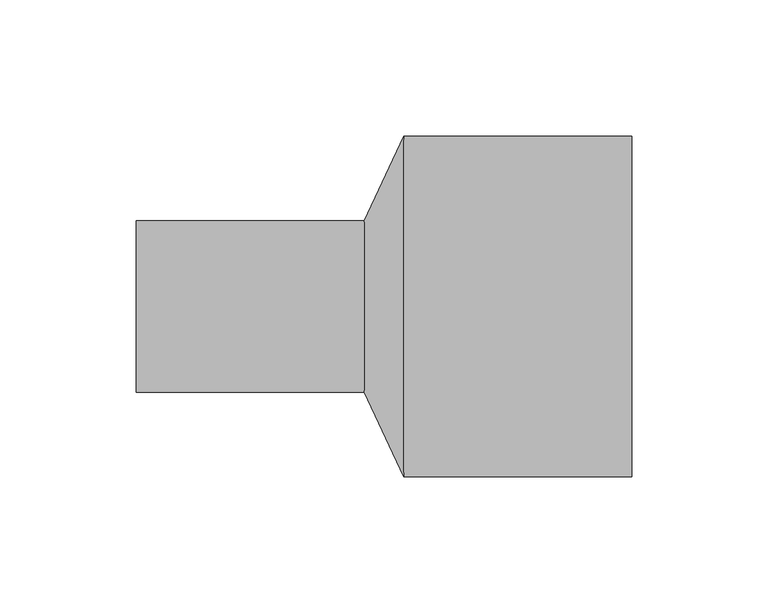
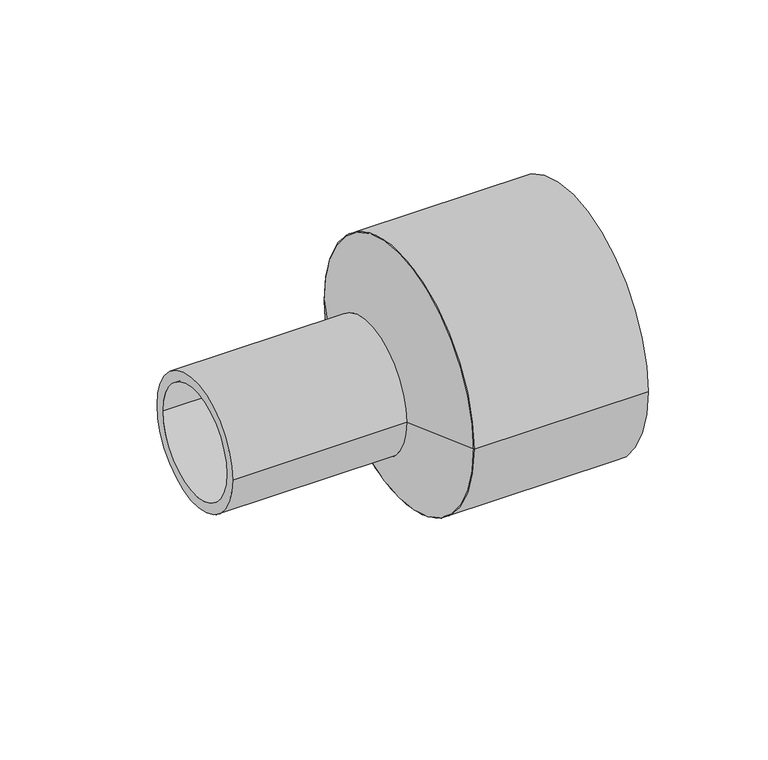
"""IFC4 building model written with IfcOpenShell, lengths in millimetres: pipe fitting geometry, EGB_VASEN_ PPR_Manguito reductor a tope WXRB110 : Manguito reductor a tope WXRB110."""

from ifc_helpers import new_model, si_unit, point, frame, origin, origin_2d, place, context, project, spatial, polyline, circle_curve, trimmed, segment, composite_curve, outline, extrude, source, transform, mapped, element, save
from ifc_brep_helpers import plane_surface, revolved_surface, advanced_brep


def pipe_fitting_527cf88c(model_context):
    return source(origin(), model_context, "Body", "SolidModel", [
        extrude(outline(composite_curve([segment(trimmed(circle_curve(origin_2d(), 62.5), [point((-62.5, 0.0))], [point((62.5, 0.0))], False, "CARTESIAN"), True, "CONTINUOUS"), segment(trimmed(circle_curve(origin_2d(), 62.5), [point((62.5, 0.0))], [point((-62.5, 0.0))], False, "CARTESIAN"), True, "CONTINUOUS")], self_intersect=False), holes=[composite_curve([segment(trimmed(circle_curve(origin_2d(), 57.5), [point((-57.5, 0.0))], [point((57.5, 0.0))], True, "CARTESIAN"), True, "CONTINUOUS"), segment(trimmed(circle_curve(origin_2d(), 57.5), [point((57.5, 0.0))], [point((-57.5, 0.0))], True, "CARTESIAN"), True, "CONTINUOUS")], self_intersect=False)]), frame((7.28, 0.0, 0.0), z_axis=(1.0, 0.0, 0.0), x_axis=(0.0, 1.0, 0.0)), (0.0, 0.0, 1.0), 83.72),
        extrude(outline(composite_curve([segment(trimmed(circle_curve(origin_2d(), 31.5), [point((-31.5, 0.0))], [point((31.5, 0.0))], False, "CARTESIAN"), True, "CONTINUOUS"), segment(trimmed(circle_curve(origin_2d(), 31.5), [point((31.5, 0.0))], [point((-31.5, 0.0))], False, "CARTESIAN"), True, "CONTINUOUS")], self_intersect=False), holes=[composite_curve([segment(trimmed(circle_curve(origin_2d(), 26.5), [point((-26.5, 0.0))], [point((26.5, 0.0))], True, "CARTESIAN"), True, "CONTINUOUS"), segment(trimmed(circle_curve(origin_2d(), 26.5), [point((26.5, 0.0))], [point((-26.5, 0.0))], True, "CARTESIAN"), True, "CONTINUOUS")], self_intersect=False)]), frame((-91.0, 0.0, 0.0), z_axis=(1.0, 0.0, 0.0), x_axis=(0.0, 1.0, 0.0)), (0.0, 0.0, 1.0), 83.72),
        advanced_brep(
        [(7.28, -62.5, 0.0), (7.28, 62.5, 0.0), (-7.28, -31.5, 0.0), (-7.28, 31.5, 0.0)],
        [
            (0, 1, circle_curve(frame((7.28, 0.0, 0.0), z_axis=(1.0, 0.0, 0.0), x_axis=(0.0, -1.0, 0.0)), 62.5)),
            (1, 0, circle_curve(frame((7.28, 0.0, 0.0), z_axis=(1.0, 0.0, 0.0), x_axis=(0.0, 1.0, 0.0)), 62.5)),
            (2, 3, circle_curve(frame((-7.28, 0.0, 0.0), z_axis=(-1.0, 0.0, 0.0), x_axis=(0.0, 1.0, 0.0)), 31.5)),
            (3, 2, circle_curve(frame((-7.28, 0.0, 0.0), z_axis=(-1.0, 0.0, 0.0), x_axis=(0.0, -1.0, 0.0)), 31.5)),
            (3, 1),
            (0, 2),
        ],
        [
            plane_surface(frame((7.28, 0.0, 0.0), z_axis=(1.0, 0.0, 0.0), x_axis=(0.0, 0.0, -1.0))),
            plane_surface(frame((-7.28, 0.0, 0.0), z_axis=(-1.0, 0.0, 0.0), x_axis=(0.0, 0.0, -1.0))),
            revolved_surface(polyline([(-7.280000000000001, 31.499999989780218, 0.0), (7.280000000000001, 62.5, 0.0)]), (-22.0748387, 0.0, 0.0), (1.0, 0.0, 0.0)),
            revolved_surface(polyline([(-7.280000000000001, -31.499999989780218, 0.0), (7.280000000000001, -62.5, 0.0)]), (-22.0748387, 0.0, 0.0), (1.0, 0.0, 0.0)),
        ],
        [
            (0, [[1, 2]]),
            (1, [[3, 4]]),
            (2, [[-4, 5, -1, 6]]),
            (3, [[-3, -6, -2, -5]]),
        ],
    ),
    ])


if __name__ == "__main__":
    model = new_model("IFC4")
    model_context = context("Model", 3, world=origin())
    ifc_project = project(units=[si_unit("LENGTHUNIT", "METRE", prefix="MILLI")], contexts=[model_context])
    site = spatial("IfcSite", under=ifc_project)
    building = spatial("IfcBuilding", under=site)
    placement = place(None, origin())
    pipe_fitting_shape = pipe_fitting_527cf88c(model_context)
    element("IfcPipeFitting", 1, ObjectType="EGB_VASEN_ PPR_Manguito reductor a tope WXRB110 : Manguito reductor a tope WXRB110", at=placement, inside=building, context=model_context, shape_type="MappedRepresentation", body=[
        mapped(pipe_fitting_shape, transform((0.0, 0.0, 0.0), x_axis=(1.0, 0.0, 0.0), y_axis=(0.0, 1.0, 0.0), z_axis=(0.0, 0.0, 1.0))),
    ])
    save(model, "model.ifc")
